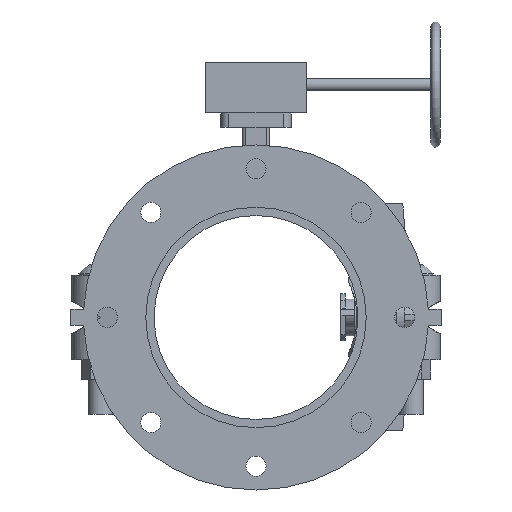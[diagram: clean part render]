
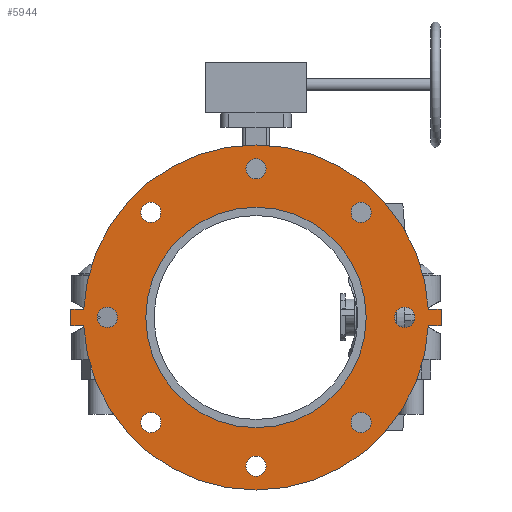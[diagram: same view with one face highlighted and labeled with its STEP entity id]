
A CAD part, front view. The second image highlights one B-rep face of the part: STEP entity #5944.
In plain terms, the highlighted planar face has unit normal (0, -1, 0) as drawn and (0, 0, -1) by its records, which use the part's own axes.
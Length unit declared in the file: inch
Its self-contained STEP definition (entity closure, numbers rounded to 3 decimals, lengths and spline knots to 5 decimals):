
#163=FACE_BOUND('',#766,.T.);
#164=FACE_BOUND('',#767,.T.);
#165=FACE_BOUND('',#768,.T.);
#166=FACE_BOUND('',#769,.T.);
#167=FACE_BOUND('',#770,.T.);
#168=FACE_BOUND('',#771,.T.);
#169=FACE_BOUND('',#772,.T.);
#170=FACE_BOUND('',#773,.T.);
#171=FACE_BOUND('',#774,.T.);
#232=PLANE('',#6439);
#437=FACE_OUTER_BOUND('',#765,.T.);
#765=EDGE_LOOP('',(#3877,#3878,#3879,#3880,#3881,#3882,#3883,#3884));
#766=EDGE_LOOP('',(#3885));
#767=EDGE_LOOP('',(#3886));
#768=EDGE_LOOP('',(#3887));
#769=EDGE_LOOP('',(#3888));
#770=EDGE_LOOP('',(#3889));
#771=EDGE_LOOP('',(#3890));
#772=EDGE_LOOP('',(#3891));
#773=EDGE_LOOP('',(#3892));
#774=EDGE_LOOP('',(#3893));
#1141=LINE('',#8959,#1599);
#1144=LINE('',#8965,#1602);
#1147=LINE('',#8970,#1605);
#1149=LINE('',#8975,#1607);
#1153=LINE('',#8982,#1611);
#1155=LINE('',#8985,#1613);
#1599=VECTOR('',#7158,0.3937);
#1602=VECTOR('',#7163,0.3937);
#1605=VECTOR('',#7168,0.3937);
#1607=VECTOR('',#7172,0.3937);
#1611=VECTOR('',#7178,0.3937);
#1613=VECTOR('',#7182,0.3937);
#2045=CIRCLE('',#6401,0.395);
#2047=CIRCLE('',#6404,0.395);
#2049=CIRCLE('',#6407,0.395);
#2051=CIRCLE('',#6410,0.395);
#2053=CIRCLE('',#6413,0.395);
#2055=CIRCLE('',#6416,0.395);
#2057=CIRCLE('',#6419,0.395);
#2059=CIRCLE('',#6422,0.395);
#2060=CIRCLE('',#6424,4.3125);
#2062=CIRCLE('',#6427,6.75);
#2065=CIRCLE('',#6431,6.75);
#2367=VERTEX_POINT('',#8888);
#2369=VERTEX_POINT('',#8894);
#2371=VERTEX_POINT('',#8900);
#2373=VERTEX_POINT('',#8906);
#2375=VERTEX_POINT('',#8912);
#2377=VERTEX_POINT('',#8918);
#2379=VERTEX_POINT('',#8924);
#2381=VERTEX_POINT('',#8930);
#2382=VERTEX_POINT('',#8934);
#2384=VERTEX_POINT('',#8940);
#2386=VERTEX_POINT('',#8943);
#2388=VERTEX_POINT('',#8949);
#2391=VERTEX_POINT('',#8954);
#2392=VERTEX_POINT('',#8958);
#2394=VERTEX_POINT('',#8964);
#2396=VERTEX_POINT('',#8973);
#2397=VERTEX_POINT('',#8974);
#2942=EDGE_CURVE('',#2367,#2367,#2045,.T.);
#2945=EDGE_CURVE('',#2369,#2369,#2047,.T.);
#2948=EDGE_CURVE('',#2371,#2371,#2049,.T.);
#2951=EDGE_CURVE('',#2373,#2373,#2051,.T.);
#2954=EDGE_CURVE('',#2375,#2375,#2053,.T.);
#2957=EDGE_CURVE('',#2377,#2377,#2055,.T.);
#2960=EDGE_CURVE('',#2379,#2379,#2057,.T.);
#2963=EDGE_CURVE('',#2381,#2381,#2059,.T.);
#2964=EDGE_CURVE('',#2382,#2382,#2060,.T.);
#2968=EDGE_CURVE('',#2384,#2386,#2062,.T.);
#2974=EDGE_CURVE('',#2391,#2388,#2065,.T.);
#2975=EDGE_CURVE('',#2386,#2392,#1141,.T.);
#2978=EDGE_CURVE('',#2394,#2391,#1144,.T.);
#2981=EDGE_CURVE('',#2392,#2394,#1147,.T.);
#2983=EDGE_CURVE('',#2396,#2397,#1149,.T.);
#2987=EDGE_CURVE('',#2388,#2396,#1153,.T.);
#2989=EDGE_CURVE('',#2397,#2384,#1155,.T.);
#3877=ORIENTED_EDGE('',*,*,#2989,.F.);
#3878=ORIENTED_EDGE('',*,*,#2983,.F.);
#3879=ORIENTED_EDGE('',*,*,#2987,.F.);
#3880=ORIENTED_EDGE('',*,*,#2974,.F.);
#3881=ORIENTED_EDGE('',*,*,#2978,.F.);
#3882=ORIENTED_EDGE('',*,*,#2981,.F.);
#3883=ORIENTED_EDGE('',*,*,#2975,.F.);
#3884=ORIENTED_EDGE('',*,*,#2968,.F.);
#3885=ORIENTED_EDGE('',*,*,#2942,.T.);
#3886=ORIENTED_EDGE('',*,*,#2945,.T.);
#3887=ORIENTED_EDGE('',*,*,#2948,.T.);
#3888=ORIENTED_EDGE('',*,*,#2951,.T.);
#3889=ORIENTED_EDGE('',*,*,#2954,.T.);
#3890=ORIENTED_EDGE('',*,*,#2957,.T.);
#3891=ORIENTED_EDGE('',*,*,#2960,.T.);
#3892=ORIENTED_EDGE('',*,*,#2963,.T.);
#3893=ORIENTED_EDGE('',*,*,#2964,.T.);
#5944=ADVANCED_FACE('',(#437,#163,#164,#165,#166,#167,#168,#169,#170,#171),
#232,.F.);
#6401=AXIS2_PLACEMENT_3D('',#8890,#7082,#7083);
#6404=AXIS2_PLACEMENT_3D('',#8896,#7089,#7090);
#6407=AXIS2_PLACEMENT_3D('',#8902,#7096,#7097);
#6410=AXIS2_PLACEMENT_3D('',#8908,#7103,#7104);
#6413=AXIS2_PLACEMENT_3D('',#8914,#7110,#7111);
#6416=AXIS2_PLACEMENT_3D('',#8920,#7117,#7118);
#6419=AXIS2_PLACEMENT_3D('',#8926,#7124,#7125);
#6422=AXIS2_PLACEMENT_3D('',#8932,#7131,#7132);
#6424=AXIS2_PLACEMENT_3D('',#8935,#7135,#7136);
#6427=AXIS2_PLACEMENT_3D('',#8944,#7143,#7144);
#6431=AXIS2_PLACEMENT_3D('',#8956,#7154,#7155);
#6439=AXIS2_PLACEMENT_3D('',#8988,#7186,#7187);
#7082=DIRECTION('center_axis',(0.,0.,1.));
#7083=DIRECTION('ref_axis',(-0.707,-0.707,0.));
#7089=DIRECTION('center_axis',(0.,0.,1.));
#7090=DIRECTION('ref_axis',(-1.,0.,0.));
#7096=DIRECTION('center_axis',(0.,0.,1.));
#7097=DIRECTION('ref_axis',(-0.707,0.707,0.));
#7103=DIRECTION('center_axis',(0.,0.,1.));
#7104=DIRECTION('ref_axis',(0.,1.,0.));
#7110=DIRECTION('center_axis',(0.,0.,1.));
#7111=DIRECTION('ref_axis',(0.707,0.707,0.));
#7117=DIRECTION('center_axis',(0.,0.,1.));
#7118=DIRECTION('ref_axis',(1.,0.,0.));
#7124=DIRECTION('center_axis',(0.,0.,1.));
#7125=DIRECTION('ref_axis',(0.707,-0.707,0.));
#7131=DIRECTION('center_axis',(0.,0.,1.));
#7132=DIRECTION('ref_axis',(0.,-1.,0.));
#7135=DIRECTION('center_axis',(0.,0.,1.));
#7136=DIRECTION('ref_axis',(0.,-1.,0.));
#7143=DIRECTION('center_axis',(0.,0.,1.));
#7144=DIRECTION('ref_axis',(0.,1.,0.));
#7154=DIRECTION('center_axis',(0.,0.,1.));
#7155=DIRECTION('ref_axis',(0.,1.,0.));
#7158=DIRECTION('',(0.,-1.,0.));
#7163=DIRECTION('',(0.,1.,0.));
#7168=DIRECTION('',(1.,0.,0.));
#7172=DIRECTION('',(-1.,0.,0.));
#7178=DIRECTION('',(0.,1.,0.));
#7182=DIRECTION('',(0.,-1.,0.));
#7186=DIRECTION('center_axis',(0.,0.,1.));
#7187=DIRECTION('ref_axis',(0.,1.,0.));
#8888=CARTESIAN_POINT('',(-3.83252,4.39113,0.));
#8890=CARTESIAN_POINT('Origin',(-4.11183,4.11183,0.));
#8894=CARTESIAN_POINT('',(0.395,5.815,0.));
#8896=CARTESIAN_POINT('Origin',(0.,5.815,0.));
#8900=CARTESIAN_POINT('',(4.39113,3.83252,0.));
#8902=CARTESIAN_POINT('Origin',(4.11183,4.11183,0.));
#8906=CARTESIAN_POINT('',(5.815,-0.395,0.));
#8908=CARTESIAN_POINT('Origin',(5.815,0.,0.));
#8912=CARTESIAN_POINT('',(3.83252,-4.39113,0.));
#8914=CARTESIAN_POINT('Origin',(4.11183,-4.11183,0.));
#8918=CARTESIAN_POINT('',(-0.395,-5.815,0.));
#8920=CARTESIAN_POINT('Origin',(0.,-5.815,0.));
#8924=CARTESIAN_POINT('',(-4.39113,-3.83252,0.));
#8926=CARTESIAN_POINT('Origin',(-4.11183,-4.11183,0.));
#8930=CARTESIAN_POINT('',(-5.815,0.395,0.));
#8932=CARTESIAN_POINT('Origin',(-5.815,0.,0.));
#8934=CARTESIAN_POINT('',(0.,4.3125,0.));
#8935=CARTESIAN_POINT('Origin',(0.,0.,0.));
#8940=CARTESIAN_POINT('',(-0.32,6.74241,0.));
#8943=CARTESIAN_POINT('',(-0.32,-6.74241,0.));
#8944=CARTESIAN_POINT('Origin',(0.,0.,0.));
#8949=CARTESIAN_POINT('',(0.32,6.74241,0.));
#8954=CARTESIAN_POINT('',(0.32,-6.74241,0.));
#8956=CARTESIAN_POINT('Origin',(0.,0.,0.));
#8958=CARTESIAN_POINT('',(-0.32,-7.25,0.));
#8959=CARTESIAN_POINT('',(-0.32,-6.74241,0.));
#8964=CARTESIAN_POINT('',(0.32,-7.25,0.));
#8965=CARTESIAN_POINT('',(0.32,-7.25,0.));
#8970=CARTESIAN_POINT('',(-0.32,-7.25,0.));
#8973=CARTESIAN_POINT('',(0.32,7.25,0.));
#8974=CARTESIAN_POINT('',(-0.32,7.25,0.));
#8975=CARTESIAN_POINT('',(0.32,7.25,0.));
#8982=CARTESIAN_POINT('',(0.32,6.74241,0.));
#8985=CARTESIAN_POINT('',(-0.32,7.25,0.));
#8988=CARTESIAN_POINT('Origin',(0.,7.01634,0.));
